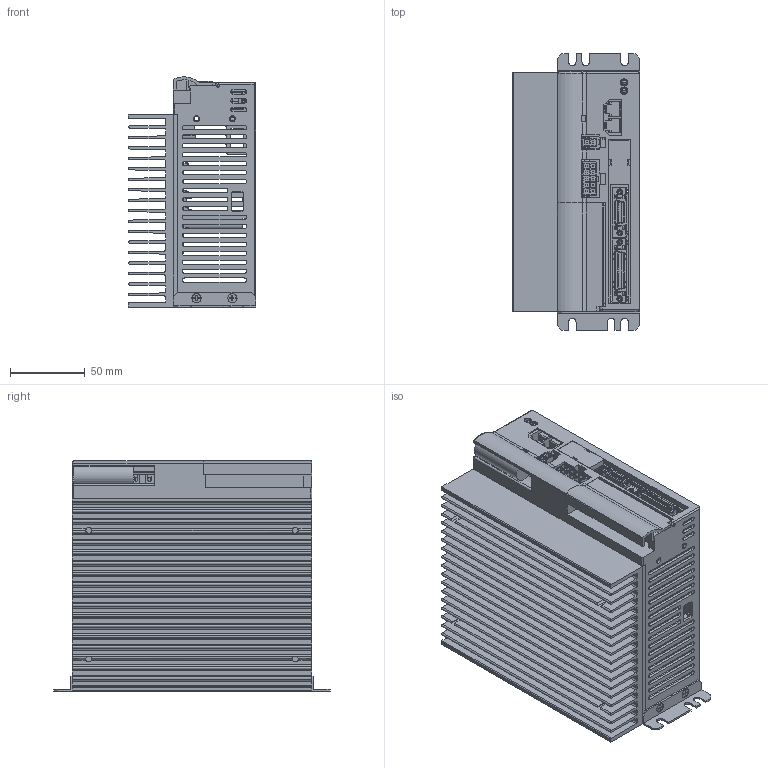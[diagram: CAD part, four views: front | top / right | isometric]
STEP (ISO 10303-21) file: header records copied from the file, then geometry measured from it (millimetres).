
FILE_DESCRIPTION( (''), '2;1');
FILE_NAME ('CA25-S40S80-_XX_3D.stp','2016-05-25T11:57:56',(''),(''),'spGate 11.3.10','spGate','');
FILE_SCHEMA (('AUTOMOTIVE_DESIGN'));
Length unit declared in the file: millimetre
Products named in the file (221): Assembly; CA25-S40S80-_XX_3D-prt0; CA25-S40S80-_XX_3D-prt1; CA25-S40S80-_XX_3D-prt2; CA25-S40S80-_XX_3D-prt3; CA25-S40S80-_XX_3D-prt4; CA25-S40S80-_XX_3D-prt5; CA25-S40S80-_XX_3D-prt6; CA25-S40S80-_XX_3D-prt7; CA25-S40S80-_XX_3D-prt8; CA25-S40S80-_XX_3D-prt9; CA25-S40S80-_XX_3D-prt10; CA25-S40S80-_XX_3D-prt11; CA25-S40S80-_XX_3D-prt12; CA25-S40S80-_XX_3D-prt13; CA25-S40S80-_XX_3D-prt14; CA25-S40S80-_XX_3D-prt15; CA25-S40S80-_XX_3D-prt16; CA25-S40S80-_XX_3D-prt17; CA25-S40S80-_XX_3D-prt18; CA25-S40S80-_XX_3D-prt19; CA25-S40S80-_XX_3D-prt20; CA25-S40S80-_XX_3D-prt21; CA25-S40S80-_XX_3D-prt22; CA25-S40S80-_XX_3D-prt23; CA25-S40S80-_XX_3D-prt24; CA25-S40S80-_XX_3D-prt25; CA25-S40S80-_XX_3D-prt26; CA25-S40S80-_XX_3D-prt27; CA25-S40S80-_XX_3D-prt28; CA25-S40S80-_XX_3D-prt29; CA25-S40S80-_XX_3D-prt30; CA25-S40S80-_XX_3D-prt31; CA25-S40S80-_XX_3D-prt32; CA25-S40S80-_XX_3D-prt33; CA25-S40S80-_XX_3D-prt34; CA25-S40S80-_XX_3D-prt35; CA25-S40S80-_XX_3D-prt36; CA25-S40S80-_XX_3D-prt37; CA25-S40S80-_XX_3D-prt38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
Assembly tree (220 placements, depth 2):
  Assembly
    CA25-S40S80-_XX_3D-prt0
    CA25-S40S80-_XX_3D-prt1
    CA25-S40S80-_XX_3D-prt2
    CA25-S40S80-_XX_3D-prt3
    CA25-S40S80-_XX_3D-prt4
    CA25-S40S80-_XX_3D-prt5
    CA25-S40S80-_XX_3D-prt6
    CA25-S40S80-_XX_3D-prt7
    CA25-S40S80-_XX_3D-prt8
    CA25-S40S80-_XX_3D-prt9
    CA25-S40S80-_XX_3D-prt10
    CA25-S40S80-_XX_3D-prt11
    CA25-S40S80-_XX_3D-prt12
    CA25-S40S80-_XX_3D-prt13
    CA25-S40S80-_XX_3D-prt14
    CA25-S40S80-_XX_3D-prt15
    CA25-S40S80-_XX_3D-prt16
    CA25-S40S80-_XX_3D-prt17
    CA25-S40S80-_XX_3D-prt18
    CA25-S40S80-_XX_3D-prt19
    CA25-S40S80-_XX_3D-prt20
    CA25-S40S80-_XX_3D-prt21
    CA25-S40S80-_XX_3D-prt22
    CA25-S40S80-_XX_3D-prt23
    CA25-S40S80-_XX_3D-prt24
    CA25-S40S80-_XX_3D-prt25
    CA25-S40S80-_XX_3D-prt26
    CA25-S40S80-_XX_3D-prt27
    CA25-S40S80-_XX_3D-prt28
    CA25-S40S80-_XX_3D-prt29
    CA25-S40S80-_XX_3D-prt30
    CA25-S40S80-_XX_3D-prt31
    CA25-S40S80-_XX_3D-prt32
    CA25-S40S80-_XX_3D-prt33
    CA25-S40S80-_XX_3D-prt34
    CA25-S40S80-_XX_3D-prt35
    CA25-S40S80-_XX_3D-prt36
    CA25-S40S80-_XX_3D-prt37
    CA25-S40S80-_XX_3D-prt38
    CA25-S40S80-_XX_3D-prt39
    CA25-S40S80-_XX_3D-prt40
    CA25-S40S80-_XX_3D-prt41
    CA25-S40S80-_XX_3D-prt42
    CA25-S40S80-_XX_3D-prt43
    CA25-S40S80-_XX_3D-prt44
    CA25-S40S80-_XX_3D-prt45
    CA25-S40S80-_XX_3D-prt46
    CA25-S40S80-_XX_3D-prt47
    CA25-S40S80-_XX_3D-prt48
    CA25-S40S80-_XX_3D-prt49
    CA25-S40S80-_XX_3D-prt50
    CA25-S40S80-_XX_3D-prt51
    CA25-S40S80-_XX_3D-prt52
    CA25-S40S80-_XX_3D-prt53
    CA25-S40S80-_XX_3D-prt54
    CA25-S40S80-_XX_3D-prt55
    CA25-S40S80-_XX_3D-prt56
    CA25-S40S80-_XX_3D-prt57
    CA25-S40S80-_XX_3D-prt58
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Bounding box: 85 x 185 x 153.99 mm (x, y, z)
Volume: 465921.4 mm3; surface area: 406144.2 mm2
Topology: 46 solids, 48 shells, 3865 faces, 10905 edges, 7471 vertices
Faces by surface type: plane 2983, cylinder 780, bspline 94, sphere 8
Entity records: 220146 total; most frequent: CARTESIAN_POINT 29839, ORIENTED_EDGE 21412, DIRECTION 20235, COLOUR_RGB 14796, PRESENTATION_STYLE_ASSIGNMENT 14796, STYLED_ITEM 14796, DRAUGHTING_PRE_DEFINED_CURVE_FONT 10883, CURVE_STYLE 10883
